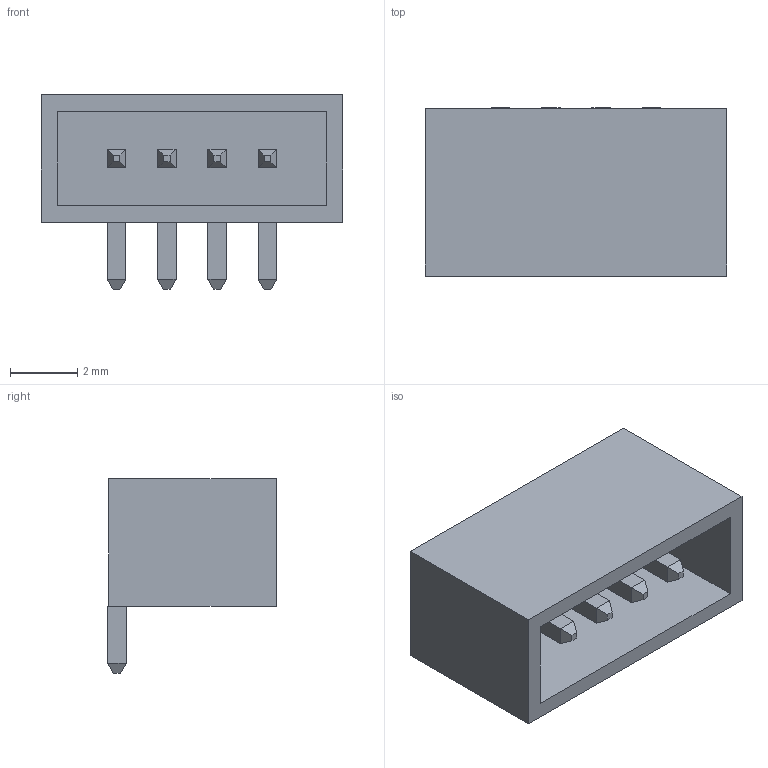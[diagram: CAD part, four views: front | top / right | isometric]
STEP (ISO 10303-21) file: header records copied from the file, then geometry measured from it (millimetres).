
FILE_DESCRIPTION (( 'STEP AP214' ), '1' );
FILE_NAME ( 'SHDRRA4W55P150_4X1_900X500H380.STEP', '2021-10-06T06:48:59', ( '' ), ( '' ), '', '©2017 PCB Libraries, Inc.', '' );
FILE_SCHEMA (( 'AUTOMOTIVE_DESIGN' ));
Length unit declared in the file: millimetre
Products named in the file (1): SHDRRA4W55P150_4X1_900X500H380
Bounding box: 9 x 5.03 x 5.8 mm (x, y, z)
Volume: 103.7 mm3; surface area: 315.2 mm2
Topology: 9 solids, 9 shells, 91 faces, 184 edges, 112 vertices
Faces by surface type: plane 91
Entity records: 2609 total; most frequent: CARTESIAN_POINT 388, DIRECTION 368, ORIENTED_EDGE 368, VECTOR 184, LINE 184, EDGE_CURVE 184, VERTEX_POINT 112, STYLED_ITEM 101
